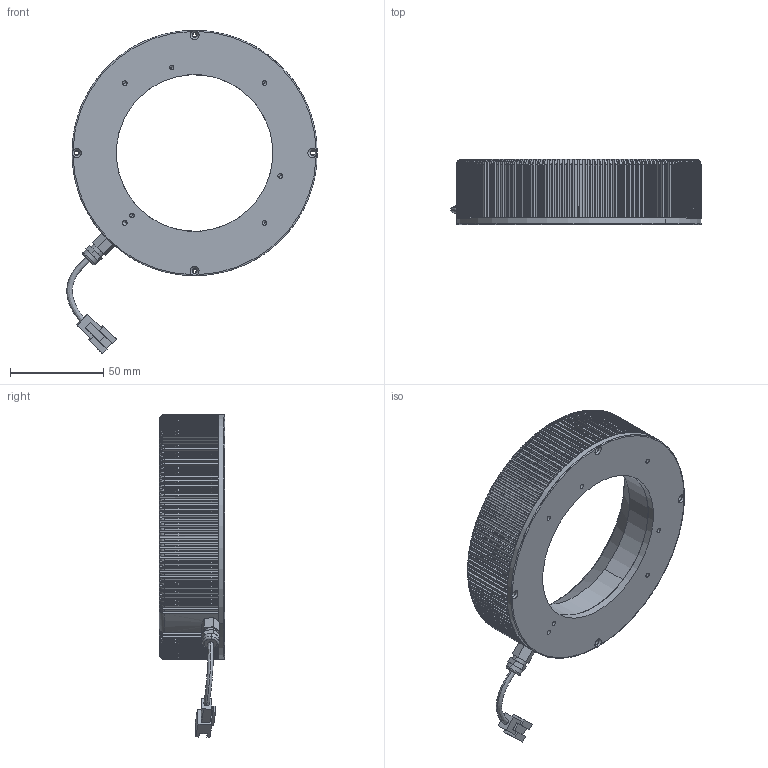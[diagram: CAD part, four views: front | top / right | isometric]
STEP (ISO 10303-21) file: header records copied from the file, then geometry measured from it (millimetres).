
FILE_DESCRIPTION (( 'STEP AP214' ), '1' );
FILE_NAME ('DLR3-60-130-1-B-24V ASSEMBLY.STEP', '2018-01-19T03:04:58', ( '' ), ( '' ), 'SwSTEP 2.0', 'SolidWorks 2016', '' );
FILE_SCHEMA (( 'AUTOMOTIVE_DESIGN' ));
Length unit declared in the file: millimetre
Products named in the file (13): CABLE 3MM; DLR3-60-130 PCBA; PCB PAD; GR PSLR31.13 (6V); DLR2-60-120-PCB; DLR3-60-130-DIFFUSER SHAPE; DLR3-45-130; DLR3-60-130-1-B-24V ASSEMBLY; DLR3-60-130-X-X-24V-BUSH; DLR3-45-130-BASE PLATE; 24V CABLE___; CANNET SHOT; 24V CONNECTER
Assembly tree (83 placements, depth 3):
  DLR3-60-130-1-B-24V ASSEMBLY
    DLR3-45-130
    DLR3-60-130-DIFFUSER SHAPE
    DLR3-60-130 PCBA
      DLR2-60-120-PCB
      GR PSLR31.13 (6V)  x72
      PCB PAD
    24V CABLE___
      CABLE 3MM
      24V CONNECTER
      CANNET SHOT
    DLR3-45-130-BASE PLATE
    DLR3-60-130-X-X-24V-BUSH
Bounding box: 134.28 x 35 x 173.31 mm (x, y, z)
Volume: 117935.9 mm3; surface area: 105427.1 mm2
Topology: 81 solids, 81 shells, 4579 faces, 12312 edges, 8183 vertices
Faces by surface type: plane 2429, cylinder 2105, cone 28, torus 12, bspline 5
Entity records: 51520 total; most frequent: CARTESIAN_POINT 16248, ORIENTED_EDGE 7556, DIRECTION 6780, EDGE_CURVE 3778, AXIS2_PLACEMENT_3D 2519, VERTEX_POINT 2503, LINE 1742, VECTOR 1742
